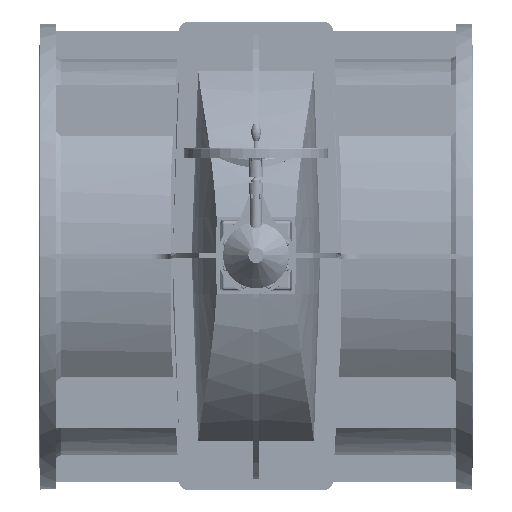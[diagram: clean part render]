
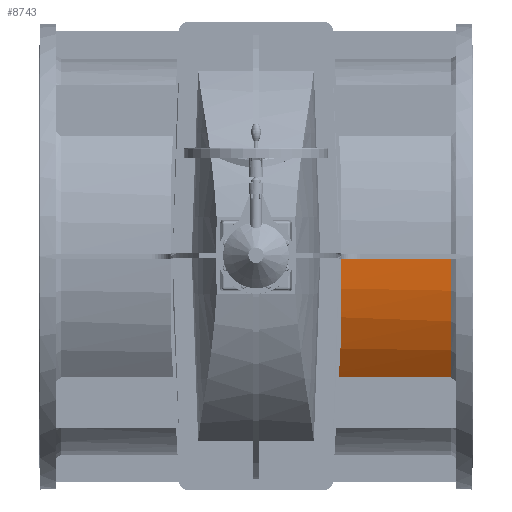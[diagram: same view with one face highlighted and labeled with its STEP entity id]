
A CAD part, top view. The second image highlights one B-rep face of the part: STEP entity #8743.
In plain terms, the highlighted cylindrical face has radius 821.667 mm (diameter 1643.33 mm), a partial arc.
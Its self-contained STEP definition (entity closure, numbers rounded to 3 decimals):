
#8743=ADVANCED_FACE('',(#13402),#13404,.T.);
#13402=FACE_BOUND('',#13403,.T.);
#13403=EDGE_LOOP('',(#31646,#31647,#31648,#31649));
#13404=CYLINDRICAL_SURFACE('',#13405,821.667);
#13405=AXIS2_PLACEMENT_3D('',#13406,#13407,#13408);
#13406=CARTESIAN_POINT('',(830.,0.,0.));
#13407=DIRECTION('',(-1.,0.,0.));
#13408=DIRECTION('',(0.,1.,0.));
#31646=ORIENTED_EDGE('',*,*,#40759,.F.);
#31647=ORIENTED_EDGE('',*,*,#40889,.T.);
#31648=ORIENTED_EDGE('',*,*,#40853,.F.);
#31649=ORIENTED_EDGE('',*,*,#40818,.T.);
#40759=EDGE_CURVE('',#45743,#45745,#45746,.T.);
#40818=EDGE_CURVE('',#45836,#45745,#45837,.F.);
#40853=EDGE_CURVE('',#45836,#45902,#45903,.F.);
#40889=EDGE_CURVE('',#45743,#45902,#45959,.T.);
#45743=VERTEX_POINT('',#55087);
#45745=VERTEX_POINT('',#55098);
#45746=LINE('',#55099,#55100);
#45836=VERTEX_POINT('',#55343);
#45837=B_SPLINE_CURVE_WITH_KNOTS('',3,
(#55344,#55345,#55346,#55347,#55348,#55349,#55350,#55351,#55352,#55353,#55354,#55355,
#55356,#55357,#55358,#55359,#55360,#55361,#55362,#55363,#55364,#55365,#55366,#55367),
.UNSPECIFIED.,.F.,.F.,
(4,1,1,1,1,1,1,1,1,1,1,1,1,1,1,1,1,1,1,1,1,4),
(0.,0.034,0.082,0.134,0.189,0.234,
0.281,0.347,0.413,0.48,0.531,
0.583,0.647,0.709,0.766,0.805,
0.841,0.874,0.907,0.938,0.969,
1.),
.UNSPECIFIED.);
#45902=VERTEX_POINT('',#55634);
#45903=LINE('',#55635,#55636);
#45959=CIRCLE('',#55824,821.667);
#55087=CARTESIAN_POINT('',(808.333,-499.619,652.317));
#55098=CARTESIAN_POINT('',(251.23,-499.619,652.317));
#55099=CARTESIAN_POINT('',(808.333,-499.619,652.317));
#55100=VECTOR('',#55101,1.);
#55101=DIRECTION('',(-1.,0.,0.));
#55343=CARTESIAN_POINT('',(274.993,-10.833,821.595));
#55344=CARTESIAN_POINT('',(251.23,-499.619,652.317));
#55345=CARTESIAN_POINT('',(251.666,-494.892,655.937));
#55346=CARTESIAN_POINT('',(252.718,-483.336,664.59));
#55347=CARTESIAN_POINT('',(254.407,-464.189,678.156));
#55348=CARTESIAN_POINT('',(256.317,-441.6,693.098));
#55349=CARTESIAN_POINT('',(258.138,-419.003,706.967));
#55350=CARTESIAN_POINT('',(259.852,-396.658,719.718));
#55351=CARTESIAN_POINT('',(261.638,-372.202,732.733));
#55352=CARTESIAN_POINT('',(263.574,-343.911,746.502));
#55353=CARTESIAN_POINT('',(265.589,-311.803,760.479));
#55354=CARTESIAN_POINT('',(267.309,-281.545,772.136));
#55355=CARTESIAN_POINT('',(268.755,-253.433,781.76));
#55356=CARTESIAN_POINT('',(270.061,-225.438,790.332));
#55357=CARTESIAN_POINT('',(271.297,-195.402,798.324));
#55358=CARTESIAN_POINT('',(272.398,-163.916,805.354));
#55359=CARTESIAN_POINT('',(273.188,-136.733,810.344));
#55360=CARTESIAN_POINT('',(273.744,-113.779,813.83));
#55361=CARTESIAN_POINT('',(274.127,-95.018,816.222));
#55362=CARTESIAN_POINT('',(274.428,-77.198,818.094));
#55363=CARTESIAN_POINT('',(274.658,-60.12,819.523));
#55364=CARTESIAN_POINT('',(274.828,-43.39,820.576));
#55365=CARTESIAN_POINT('',(274.942,-27.023,821.276));
#55366=CARTESIAN_POINT('',(274.982,-16.198,821.525));
#55367=CARTESIAN_POINT('',(274.993,-10.833,821.595));
#55634=CARTESIAN_POINT('',(808.333,-10.833,821.595));
#55635=CARTESIAN_POINT('',(808.333,-10.833,821.595));
#55636=VECTOR('',#55637,1.);
#55637=DIRECTION('',(-1.,0.,0.));
#55824=AXIS2_PLACEMENT_3D('',#55825,#55826,#55827);
#55825=CARTESIAN_POINT('',(808.333,0.,0.));
#55826=DIRECTION('',(-1.,0.,0.));
#55827=DIRECTION('',(0.,-0.608,0.794));
